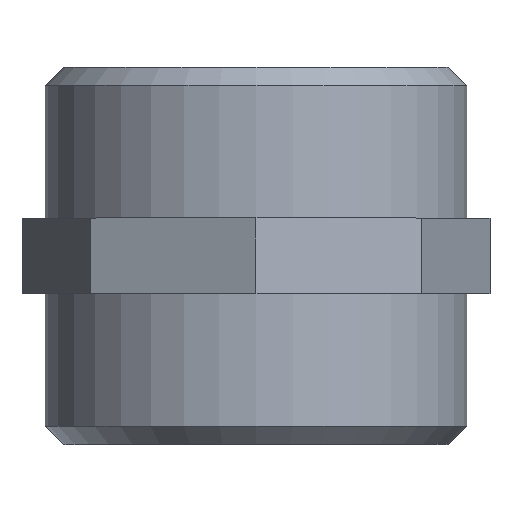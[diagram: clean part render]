
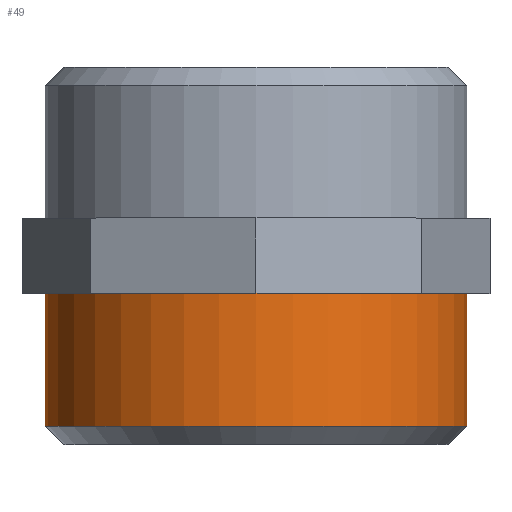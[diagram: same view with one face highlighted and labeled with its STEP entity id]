
A CAD part, top view. The second image highlights one B-rep face of the part: STEP entity #49.
In plain terms, the highlighted cylindrical face has radius 20.955 mm (diameter 41.91 mm), a full revolution.
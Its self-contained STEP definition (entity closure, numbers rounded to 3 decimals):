
#49=ADVANCED_FACE('',(#108,#110),#112,.T.);
#108=FACE_OUTER_BOUND('',#109,.T.);
#109=EDGE_LOOP('',(#228));
#110=FACE_OUTER_BOUND('',#111,.T.);
#111=EDGE_LOOP('',(#229));
#112=CYLINDRICAL_SURFACE('',#113,20.955);
#113=AXIS2_PLACEMENT_3D('',#114,#115,#116);
#114=CARTESIAN_POINT('',(0.,-18.75,0.));
#115=DIRECTION('',(0.,1.,0.));
#116=DIRECTION('',(-1.,0.,0.));
#228=ORIENTED_EDGE('',*,*,#294,.T.);
#229=ORIENTED_EDGE('',*,*,#292,.T.);
#292=EDGE_CURVE('',#332,#332,#333,.T.);
#294=EDGE_CURVE('',#336,#336,#337,.F.);
#332=VERTEX_POINT('',#410);
#333=CIRCLE('',#411,20.955);
#336=VERTEX_POINT('',#420);
#337=CIRCLE('',#421,20.955);
#410=CARTESIAN_POINT('',(-20.955,-16.95,0.));
#411=AXIS2_PLACEMENT_3D('',#412,#413,#414);
#412=CARTESIAN_POINT('',(0.,-16.95,0.));
#413=DIRECTION('',(0.,1.,0.));
#414=DIRECTION('',(-1.,0.,0.));
#420=CARTESIAN_POINT('',(-20.955,-3.75,0.));
#421=AXIS2_PLACEMENT_3D('',#422,#423,#424);
#422=CARTESIAN_POINT('',(0.,-3.75,0.));
#423=DIRECTION('',(0.,1.,0.));
#424=DIRECTION('',(-1.,0.,0.));
